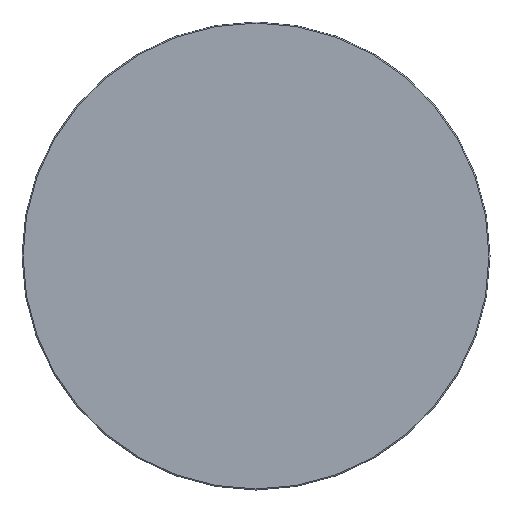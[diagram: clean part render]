
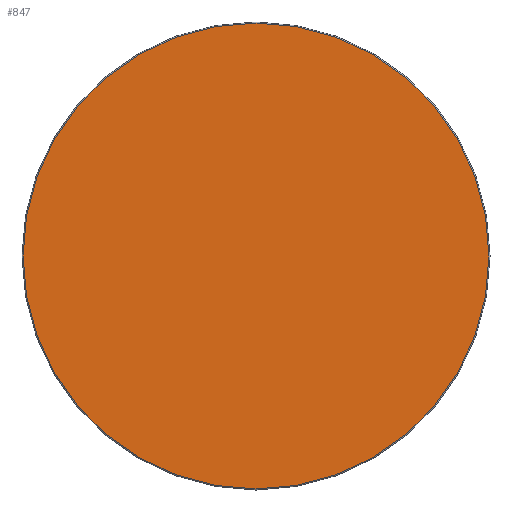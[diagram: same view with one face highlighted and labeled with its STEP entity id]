
A CAD part, left-side view. The second image highlights one B-rep face of the part: STEP entity #847.
In plain terms, the highlighted planar face has unit normal (-1, 0, 0).
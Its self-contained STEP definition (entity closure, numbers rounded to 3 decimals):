
#824=CARTESIAN_POINT('',(0.0,224.0,0.0));
#825=VERTEX_POINT('',#824);
#826=CARTESIAN_POINT('',(0.0,0.0,0.0));
#827=DIRECTION('',(1.0,0.0,0.0));
#828=DIRECTION('',(0.0,-1.0,0.0));
#829=AXIS2_PLACEMENT_3D('',#826,#827,#828);
#830=CIRCLE('',#829,224.0);
#831=EDGE_CURVE('',#825,#825,#830,.T.);
#839=CARTESIAN_POINT('',(0.0,162.347,0.));
#840=DIRECTION('',(-1.0,0.0,0.0));
#841=DIRECTION('',(0.0,0.0,1.0));
#842=AXIS2_PLACEMENT_3D('',#839,#840,#841);
#843=PLANE('',#842);
#844=ORIENTED_EDGE('',*,*,#831,.F.);
#845=EDGE_LOOP('',(#844));
#846=FACE_OUTER_BOUND('',#845,.T.);
#847=ADVANCED_FACE('',(#846),#843,.T.);
